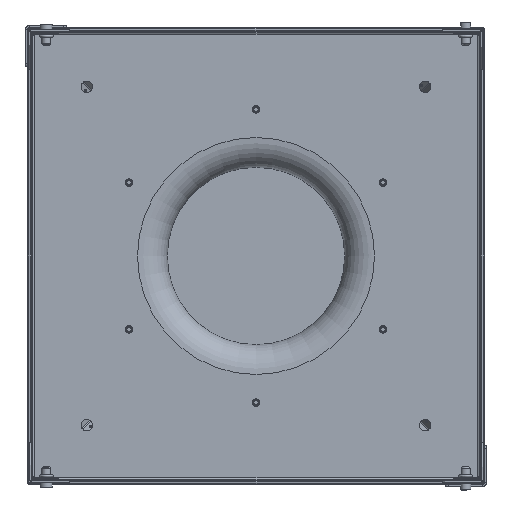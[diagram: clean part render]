
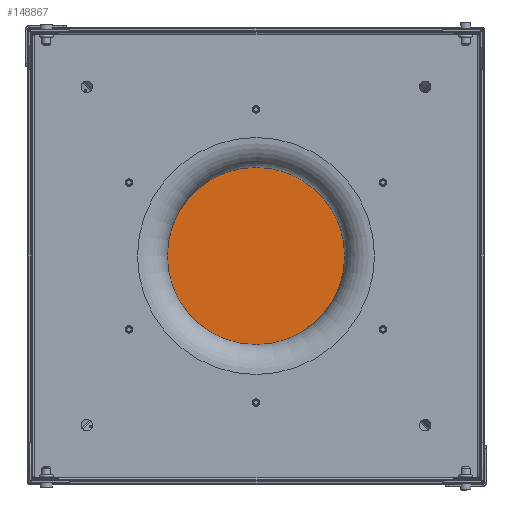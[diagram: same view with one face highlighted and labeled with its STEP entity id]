
A CAD part, front view. The second image highlights one B-rep face of the part: STEP entity #148867.
In plain terms, the highlighted planar face has unit normal (0, -1, 0).
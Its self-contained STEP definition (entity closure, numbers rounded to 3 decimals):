
#1118 = VECTOR ( 'NONE', #192130, 1000. ) ;
#4941 = PLANE ( 'NONE',  #51276 ) ;
#7461 = VERTEX_POINT ( 'NONE', #23129 ) ;
#9665 = VECTOR ( 'NONE', #27027, 1000. ) ;
#11366 = DIRECTION ( 'NONE',  ( 0., 0., -1. ) ) ;
#12477 = FACE_OUTER_BOUND ( 'NONE', #62887, .T. ) ;
#12861 = ORIENTED_EDGE ( 'NONE', *, *, #186474, .F. ) ;
#18041 = VERTEX_POINT ( 'NONE', #22273 ) ;
#18932 = EDGE_CURVE ( 'NONE', #70853, #161833, #128421, .T. ) ;
#22273 = CARTESIAN_POINT ( 'NONE',  ( 98.102, 455.468, -98.102 ) ) ;
#23129 = CARTESIAN_POINT ( 'NONE',  ( -98.102, 455.468, -98.102 ) ) ;
#27027 = DIRECTION ( 'NONE',  ( 0., 0., 1. ) ) ;
#37095 = DIRECTION ( 'NONE',  ( 0., 0., 1. ) ) ;
#51276 = AXIS2_PLACEMENT_3D ( 'NONE', #116586, #132592, #37095 ) ;
#52176 = LINE ( 'NONE', #153886, #9665 ) ;
#62887 = EDGE_LOOP ( 'NONE', ( #171617, #67465, #12861, #182825 ) ) ;
#67465 = ORIENTED_EDGE ( 'NONE', *, *, #119439, .F. ) ;
#70093 = CARTESIAN_POINT ( 'NONE',  ( 98.102, 455.468, -98.102 ) ) ;
#70853 = VERTEX_POINT ( 'NONE', #162287 ) ;
#102355 = LINE ( 'NONE', #202421, #182218 ) ;
#116586 = CARTESIAN_POINT ( 'NONE',  ( 0., 455.468, 0. ) ) ;
#119439 = EDGE_CURVE ( 'NONE', #7461, #70853, #52176, .T. ) ;
#128421 = LINE ( 'NONE', #176111, #1118 ) ;
#131688 = CARTESIAN_POINT ( 'NONE',  ( 98.102, 455.468, 98.102 ) ) ;
#132592 = DIRECTION ( 'NONE',  ( 0., 1., 0. ) ) ;
#148867 = ADVANCED_FACE ( 'NONE', ( #12477 ), #4941, .F. ) ;
#149591 = EDGE_CURVE ( 'NONE', #161833, #18041, #102355, .T. ) ;
#153886 = CARTESIAN_POINT ( 'NONE',  ( -98.102, 455.468, -98.102 ) ) ;
#161833 = VERTEX_POINT ( 'NONE', #131688 ) ;
#162287 = CARTESIAN_POINT ( 'NONE',  ( -98.102, 455.468, 98.102 ) ) ;
#167160 = VECTOR ( 'NONE', #181621, 1000. ) ;
#171617 = ORIENTED_EDGE ( 'NONE', *, *, #18932, .F. ) ;
#176111 = CARTESIAN_POINT ( 'NONE',  ( -98.102, 455.468, 98.102 ) ) ;
#181621 = DIRECTION ( 'NONE',  ( -1., 0., 0. ) ) ;
#182218 = VECTOR ( 'NONE', #11366, 1000. ) ;
#182825 = ORIENTED_EDGE ( 'NONE', *, *, #149591, .F. ) ;
#186474 = EDGE_CURVE ( 'NONE', #18041, #7461, #204568, .T. ) ;
#192130 = DIRECTION ( 'NONE',  ( 1., 0., 0. ) ) ;
#202421 = CARTESIAN_POINT ( 'NONE',  ( 98.102, 455.468, 98.102 ) ) ;
#204568 = LINE ( 'NONE', #70093, #167160 ) ;
